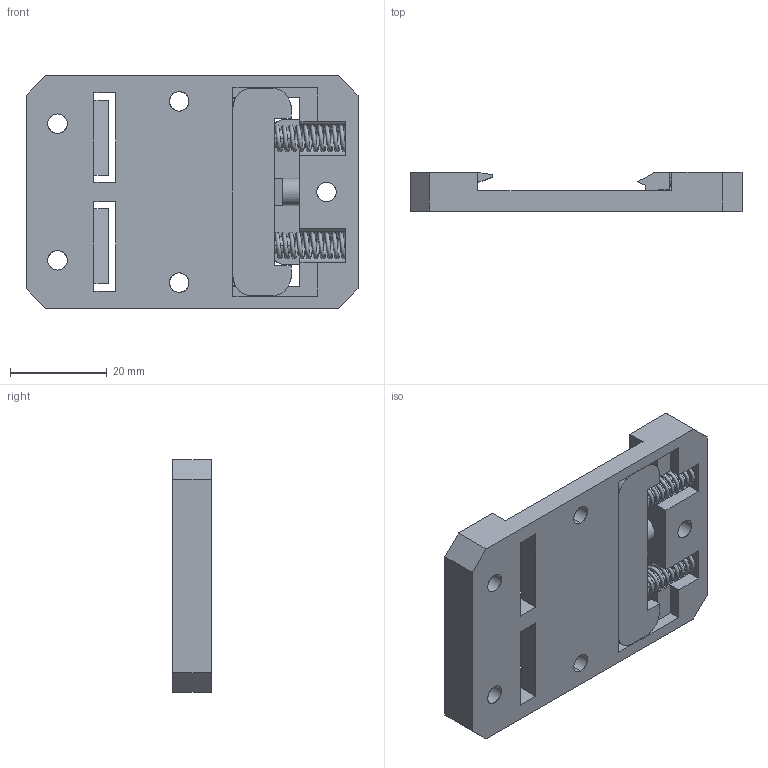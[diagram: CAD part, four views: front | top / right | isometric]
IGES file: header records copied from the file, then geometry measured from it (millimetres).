
Start section: SolidWorks IGES file using analytic representation for surfaces
Global section: file name: W:\end-user\products\dinm\dinm15v2\3dmodel\rev_a-2-2022-07-15\render\dinm15v2-rc_rev_a.igs; native system: SolidWorks 2018; preprocessor: SolidWorks 2018; author: leviroy; date: 220715.164434; units: inch
Bounding box: 68.5 x 8 x 48 mm (x, y, z)
Surface area: 11322.5 mm2 (no closed solid volume)
Topology: 0 solids, 0 shells, 160 faces, 1758 edges, 1758 vertices
Faces by surface type: bspline 115, revolution 45
